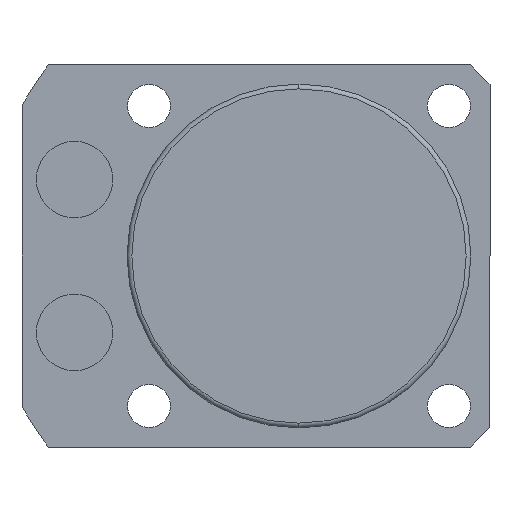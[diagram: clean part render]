
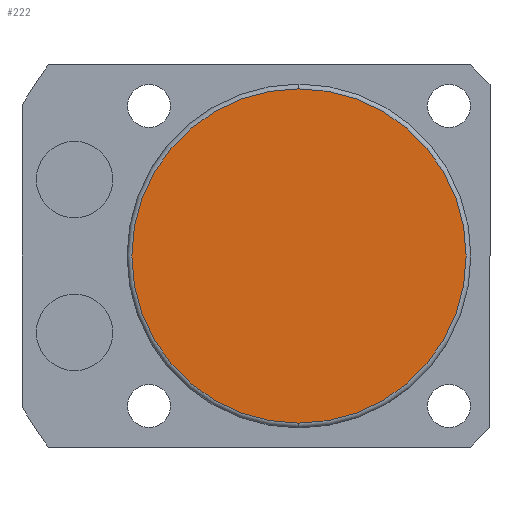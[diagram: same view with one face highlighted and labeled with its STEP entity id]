
A CAD part, front view. The second image highlights one B-rep face of the part: STEP entity #222.
In plain terms, the highlighted planar face has unit normal (0, -1, 0).
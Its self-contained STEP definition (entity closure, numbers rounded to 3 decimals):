
#132 = CARTESIAN_POINT ( 'NONE',  ( 0., -90.5, 0. ) ) ;
#222 = ADVANCED_FACE ( 'NONE', ( #1682 ), #957, .T. ) ;
#342 = CIRCLE ( 'NONE', #1270, 17.5 ) ;
#354 = DIRECTION ( 'NONE',  ( 0., 0., -1. ) ) ;
#392 = EDGE_LOOP ( 'NONE', ( #529, #2602 ) ) ;
#529 = ORIENTED_EDGE ( 'NONE', *, *, #2014, .T. ) ;
#631 = CARTESIAN_POINT ( 'NONE',  ( 0., -90.5, -17.5 ) ) ;
#746 = DIRECTION ( 'NONE',  ( 0., 0., -1. ) ) ;
#957 = PLANE ( 'NONE',  #1146 ) ;
#1097 = CARTESIAN_POINT ( 'NONE',  ( 0., -90.5, 0. ) ) ;
#1127 = CIRCLE ( 'NONE', #2383, 17.5 ) ;
#1146 = AXIS2_PLACEMENT_3D ( 'NONE', #132, #1788, #354 ) ;
#1270 = AXIS2_PLACEMENT_3D ( 'NONE', #2191, #1589, #746 ) ;
#1306 = EDGE_CURVE ( 'NONE', #2516, #1899, #342, .T. ) ;
#1512 = CARTESIAN_POINT ( 'NONE',  ( 0., -90.5, 17.5 ) ) ;
#1589 = DIRECTION ( 'NONE',  ( 0., -1., 0. ) ) ;
#1682 = FACE_OUTER_BOUND ( 'NONE', #392, .T. ) ;
#1788 = DIRECTION ( 'NONE',  ( 0., -1., 0. ) ) ;
#1899 = VERTEX_POINT ( 'NONE', #631 ) ;
#1944 = DIRECTION ( 'NONE',  ( 0., 0., -1. ) ) ;
#2014 = EDGE_CURVE ( 'NONE', #1899, #2516, #1127, .T. ) ;
#2131 = DIRECTION ( 'NONE',  ( 0., -1., 0. ) ) ;
#2191 = CARTESIAN_POINT ( 'NONE',  ( 0., -90.5, 0. ) ) ;
#2383 = AXIS2_PLACEMENT_3D ( 'NONE', #1097, #2131, #1944 ) ;
#2516 = VERTEX_POINT ( 'NONE', #1512 ) ;
#2602 = ORIENTED_EDGE ( 'NONE', *, *, #1306, .T. ) ;
